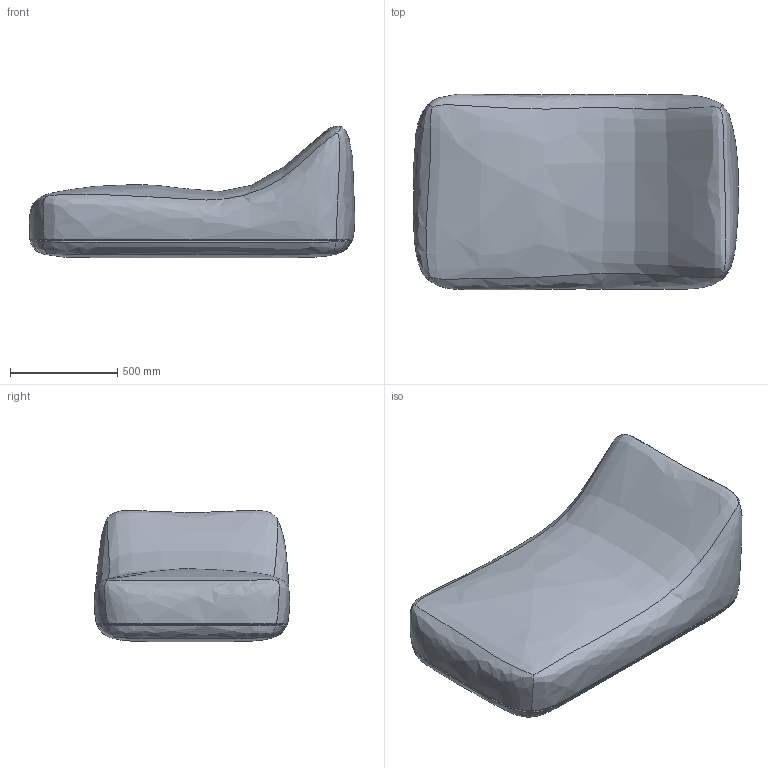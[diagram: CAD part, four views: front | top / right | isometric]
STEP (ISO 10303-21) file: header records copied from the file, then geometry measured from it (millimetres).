
FILE_DESCRIPTION(/* description */ (''),/* implementation_level */ '2;1');
FILE_NAME(/* name */ 'Storm Lounge Large',/* time_stamp */ '2020-03-23T12:09:44+01:00',/* author */ (''),/* organization */ (''),/* preprocessor_version */ 'ST-DEVELOPER v15',/* originating_system */ '',/* authorisation */ '');
FILE_SCHEMA (('AUTOMOTIVE_DESIGN'));
Length unit declared in the file: millimetre
Products named in the file (1): Document
Bounding box: 1514.56 x 909.78 x 612.29 mm (x, y, z)
Volume: 451347558.8 mm3; surface area: 6526246.4 mm2
Topology: 2 solids, 2 shells, 20 faces, 40 edges, 24 vertices
Faces by surface type: bspline 18, plane 2
Entity records: 4712 total; most frequent: CARTESIAN_POINT 4474, ORIENTED_EDGE 80, EDGE_CURVE 40, VERTEX_POINT 24, ADVANCED_FACE 20, FACE_OUTER_BOUND 20, EDGE_LOOP 20, DIRECTION 6
